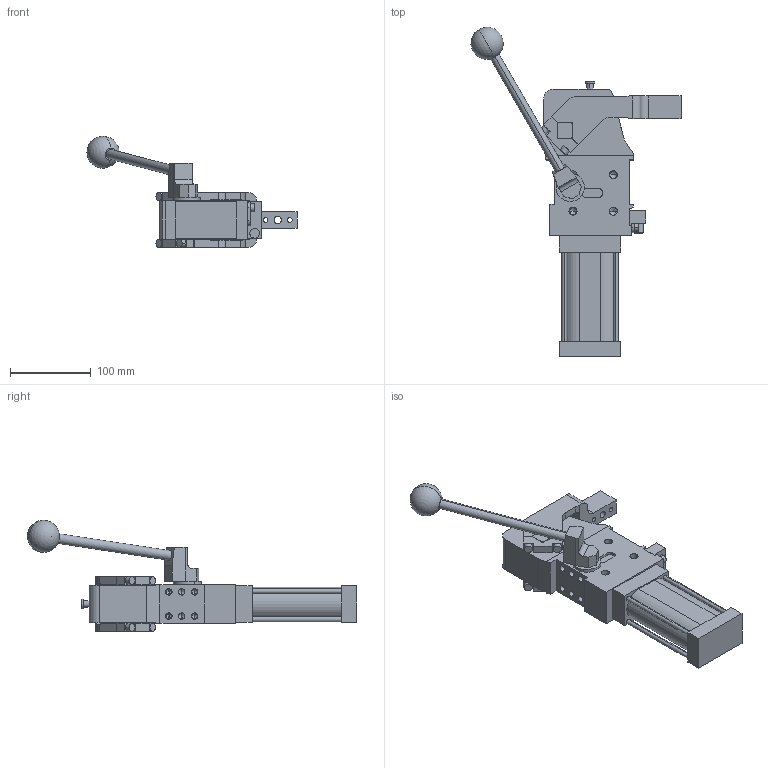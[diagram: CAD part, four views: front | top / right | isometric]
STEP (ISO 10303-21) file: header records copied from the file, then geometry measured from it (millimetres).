
FILE_DESCRIPTION (( 'STEP AP214' ), '1' );
FILE_NAME ('cplm50lav1csi1g_16.STEP', '2023-01-26T13:15:37', ( '' ), ( '' ), 'SwSTEP 2.0', 'SolidWorks 2022', '' );
FILE_SCHEMA (( 'AUTOMOTIVE_DESIGN' ));
Length unit declared in the file: millimetre
Products named in the file (5): cplm50lav1csi1g_16; blocchetto_VEP_0; leva_cx_offset_15_cpl50; meccanica_cplm_50; comando_manuale_cplm_50
Assembly tree (4 placements, depth 2):
  cplm50lav1csi1g_16
    meccanica_cplm_50
    blocchetto_VEP_0
    leva_cx_offset_15_cpl50
    comando_manuale_cplm_50
Bounding box: 260.57 x 408.56 x 138.5 mm (x, y, z)
Volume: 1459795.2 mm3; surface area: 180083.6 mm2
Topology: 4 solids, 4 shells, 431 faces, 1108 edges, 691 vertices
Faces by surface type: plane 212, cylinder 167, cone 50, sphere 2
Entity records: 14373 total; most frequent: DIRECTION 2287, CARTESIAN_POINT 2253, ORIENTED_EDGE 2114, EDGE_CURVE 1057, AXIS2_PLACEMENT_3D 796, VECTOR 695, LINE 695, VERTEX_POINT 688
